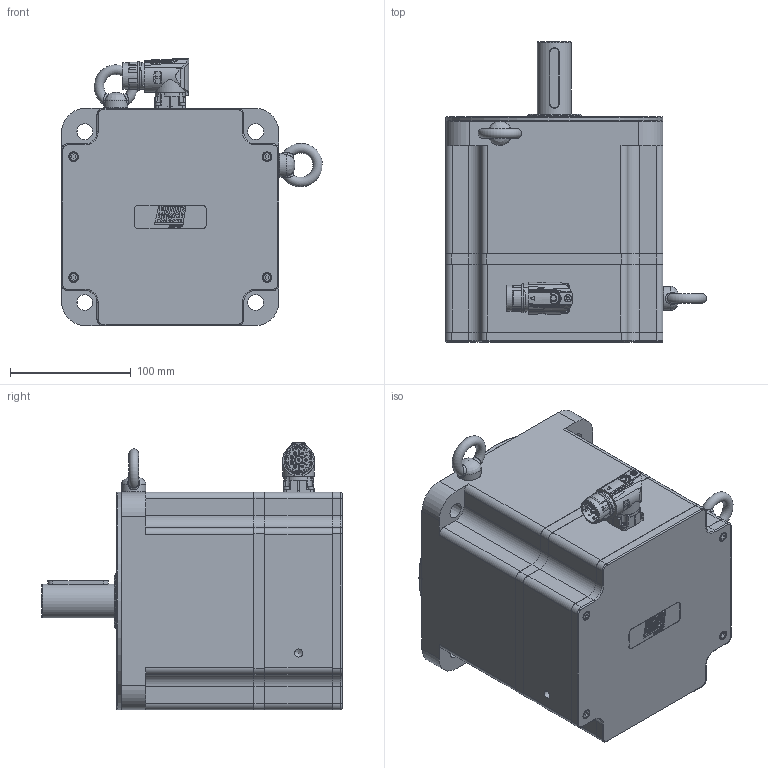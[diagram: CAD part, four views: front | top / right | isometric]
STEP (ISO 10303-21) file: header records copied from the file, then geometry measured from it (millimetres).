
FILE_DESCRIPTION(/* description */ ('Unknown'),/* implementation_level */ '2;1');
FILE_NAME(/* name */ 'TC4-180.7A.X X.X.3.XX.0.X.C21',/* time_stamp */ '2026-03-10T10:37:29+01:00',/* author */ ('Unknown'),/* organization */ ('Unknown'),/* preprocessor_version */ 'ST-DEVELOPER v19.4',/* originating_system */ 'Solid Edge',/* authorisation */ 'Unknown');
FILE_SCHEMA (('AUTOMOTIVE_DESIGN {1 0 10303 214 3 1 1}'));
Products named in the file (14): Q0B807 7A VUOTO; Calotta TC4-180 V8; 003251040631; 005911000479; 003155002233; 003003199965; 005113000610; 005119001064; Corpo TC4-180 7A V7; 005911000185; Coperchio campana TC4-180; 005911000180; 005321000010; 007117000456
Assembly tree (27 placements, depth 2):
  Q0B807 7A VUOTO
    Calotta TC4-180 V8
    003251040631
    005911000479  x8
    003155002233
    003003199965
    005113000610
    005119001064
    Corpo TC4-180 7A V7
    005911000185  x4
    Coperchio campana TC4-180
    005911000180  x4
    005321000010  x2
    007117000456
Bounding box: 215.97 x 248.5 x 221.5 mm (x, y, z)
Volume: 2570555.5 mm3; surface area: 582186.6 mm2
Topology: 29 solids, 29 shells, 1736 faces, 4351 edges, 2779 vertices
Faces by surface type: plane 767, cylinder 381, bspline 227, cone 196, torus 129, sphere 36
Full cylindrical faces by diameter (mm): 1 x4, 1.4 x4, 2 x4, 2.013 x8, 2.5 x4, 2.8 x4, 3 x8, 3.242 x8, 4 x5, 4.134 x24, 4.2 x8, 4.5 x9, 4.7 x4, 5 x8, 5.5 x9, 5.8 x1, 5.9 x1, 6.647 x14, 6.8 x1, 7 x6, 8 x6, 8.376 x2, 9 x4, 10 x3, 15 x1, 17.4 x1, 19.9 x1, 20 x3, 21.15 x2, 21.6 x1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
Entity records: 59735 total; most frequent: CARTESIAN_POINT 15575, ORIENTED_EDGE 6948, DIRECTION 6615, EDGE_CURVE 3474, AXIS2_PLACEMENT_3D 2507, VERTEX_POINT 2402, FACE_BOUND 2028, EDGE_LOOP 2002
